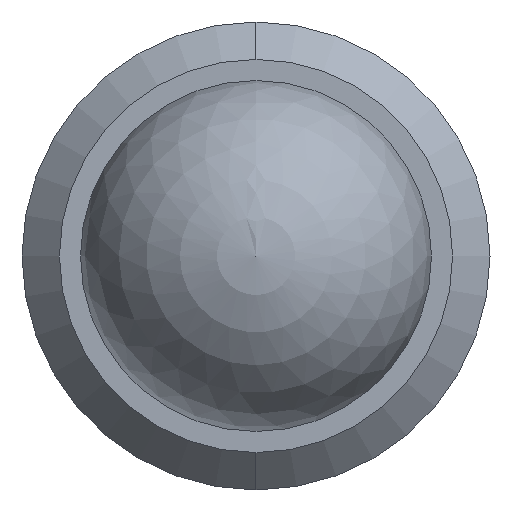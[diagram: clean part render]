
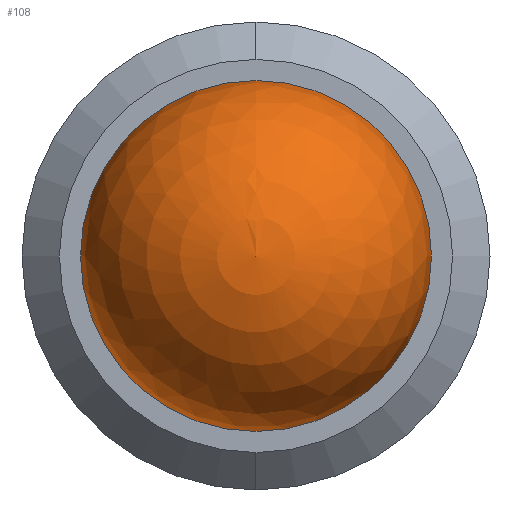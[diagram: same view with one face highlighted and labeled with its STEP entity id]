
A CAD part, left-side view. The second image highlights one B-rep face of the part: STEP entity #108.
In plain terms, the highlighted spherical face has radius 2.381 mm.
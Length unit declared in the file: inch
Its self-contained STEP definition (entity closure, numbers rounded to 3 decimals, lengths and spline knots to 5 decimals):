
#29 = EDGE_CURVE ( 'NONE', #521, #285, #199, .T. ) ;
#45 = DIRECTION ( 'NONE',  ( -1., 0., 0. ) ) ;
#69 = AXIS2_PLACEMENT_3D ( 'NONE', #333, #45, #158 ) ;
#70 = SPHERICAL_SURFACE ( 'NONE', #69, 0.09375 ) ;
#98 = DIRECTION ( 'NONE',  ( 0., 0., 1. ) ) ;
#108 = ADVANCED_FACE ( 'NONE', ( #414 ), #70, .T. ) ;
#118 = CARTESIAN_POINT ( 'NONE',  ( 0., 0., 0. ) ) ;
#135 = CARTESIAN_POINT ( 'NONE',  ( 0., 0., 0. ) ) ;
#158 = DIRECTION ( 'NONE',  ( 0., 0., 1. ) ) ;
#161 = DIRECTION ( 'NONE',  ( 0., 0., -1. ) ) ;
#199 = CIRCLE ( 'NONE', #249, 0.09375 ) ;
#206 = CARTESIAN_POINT ( 'NONE',  ( 0., 0.09375, 0. ) ) ;
#242 = ORIENTED_EDGE ( 'NONE', *, *, #604, .F. ) ;
#249 = AXIS2_PLACEMENT_3D ( 'NONE', #135, #305, #98 ) ;
#259 = AXIS2_PLACEMENT_3D ( 'NONE', #118, #497, #161 ) ;
#285 = VERTEX_POINT ( 'NONE', #358 ) ;
#305 = DIRECTION ( 'NONE',  ( -1., 0., 0. ) ) ;
#333 = CARTESIAN_POINT ( 'NONE',  ( 0., 0., 0. ) ) ;
#358 = CARTESIAN_POINT ( 'NONE',  ( 0., -0.09375, 0. ) ) ;
#414 = FACE_OUTER_BOUND ( 'NONE', #498, .T. ) ;
#497 = DIRECTION ( 'NONE',  ( 1., 0., 0. ) ) ;
#498 = EDGE_LOOP ( 'NONE', ( #242, #523 ) ) ;
#521 = VERTEX_POINT ( 'NONE', #206 ) ;
#523 = ORIENTED_EDGE ( 'NONE', *, *, #29, .T. ) ;
#596 = CIRCLE ( 'NONE', #259, 0.09375 ) ;
#604 = EDGE_CURVE ( 'NONE', #521, #285, #596, .T. ) ;
